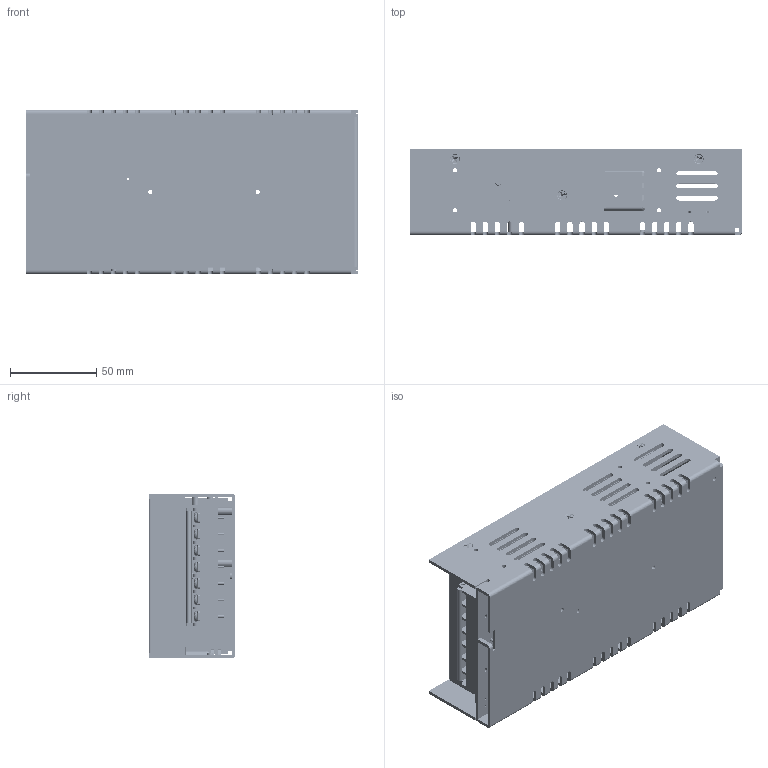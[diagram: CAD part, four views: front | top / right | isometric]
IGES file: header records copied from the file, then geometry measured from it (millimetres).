
Start section: SolidWorks IGES file using analytic representation for surfaces
Global section: file name: C:\Users\behzar\Desktop\BEHZAR\PROJECTS\CURRENT-2012\C3434-C3618-LCL300-FAN\REF\LCLXXX-RELEASE\LCL150\LCL150-CHASSIS.IGS; native system: SolidWorks 2011; preprocessor: SolidWorks 2011; author: BEHZAR; date: 121008.103442; units: inch
Bounding box: 192 x 50 x 95 mm (x, y, z)
Surface area: 161113.9 mm2 (no closed solid volume)
Topology: 0 solids, 0 shells, 2526 faces, 33598 edges, 33598 vertices
Faces by surface type: bspline 1281, revolution 1245
